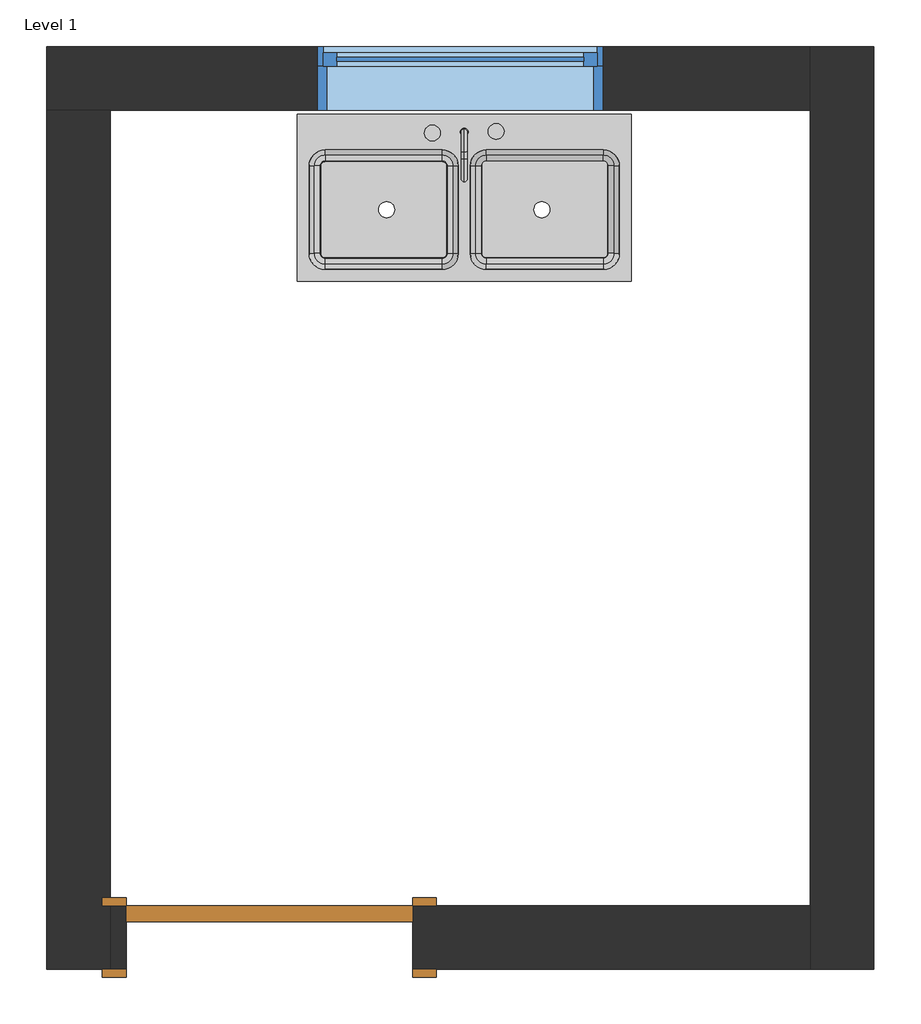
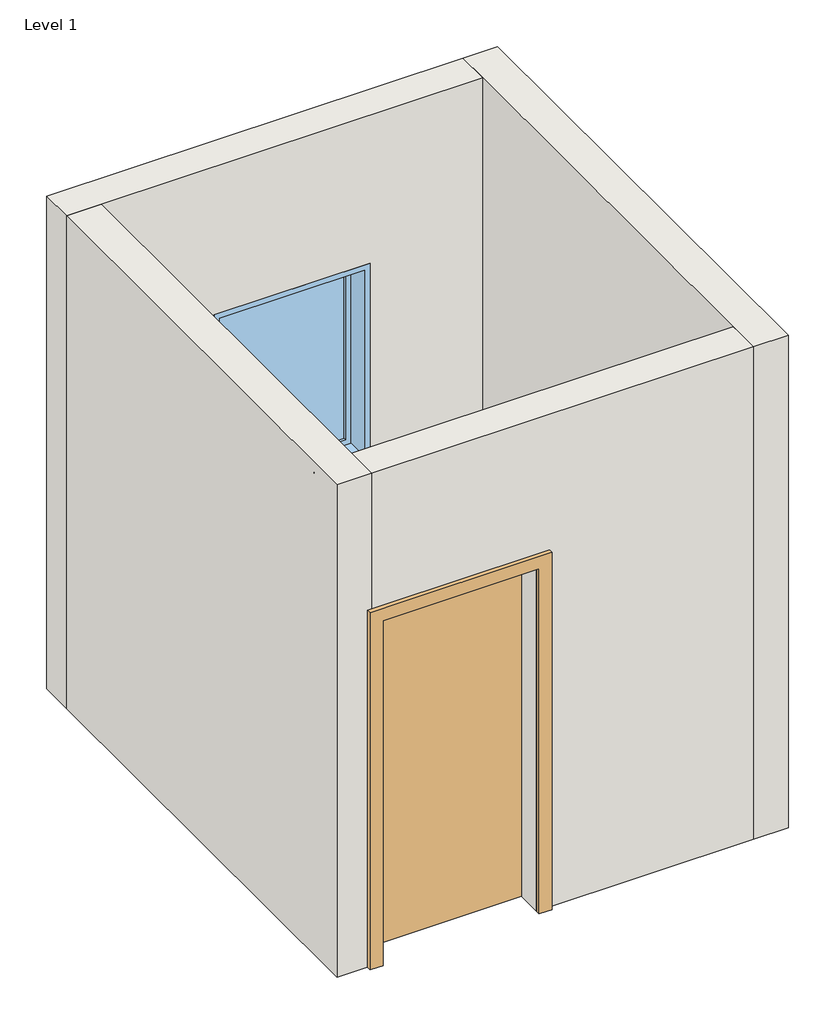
# One storey: 4 walls, 1 door, 1 flow terminal, 1 window.
"""IFC4 building model written with IfcOpenShell, lengths in millimetres."""

from ifc_helpers import new_model, si_unit, frame, origin, place, context, project, spatial, polyline, outline, extrude, faceted_brep, transform, mapped, element, save
from components import door_719f80de, flow_terminal_88eaddf2, window_e2841890

model = new_model("IFC4")

# Units and contexts
model_context = context("Model", 3, world=origin())
ifc_project = project(units=[si_unit("LENGTHUNIT", "METRE", prefix="MILLI")], contexts=[model_context])

# Site, building, storey
site = spatial("IfcSite", under=ifc_project)
building = spatial("IfcBuilding", under=site)
storey = spatial("IfcBuildingStorey", under=building, Name="Level 1", Elevation=0.0)

# Door
placement = place(None, origin())
door_shape = door_719f80de(model_context)
element("IfcDoor", 1, ObjectType="Single-Flush : 36\" x 84\"", at=placement, inside=storey, context=model_context, shape_type="MappedRepresentation", body=[
    mapped(door_shape, transform((-2555.0513488, 4196.5620945, 0.0), x_axis=(-0.9999999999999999, 0.0, 0.0), y_axis=(0.0, -0.9999999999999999, 0.0), z_axis=(0.0, 0.0, 1.0))),
])

# Flow terminal
flow_terminal_shape = flow_terminal_88eaddf2(model_context)
element("IfcFlowTerminal", 2, ObjectType="Sink Kitchen-Double : 42\" x 21\"", at=placement, inside=storey, context=model_context, shape_type="MappedRepresentation", body=[
    mapped(flow_terminal_shape, transform((-1948.4405894, 6556.4166934, 0.0), x_axis=(1.0, 0.0, 0.0), y_axis=(0.0, 1.0, 0.0), z_axis=(0.0, 0.0, 1.0))),
])

# Walls
element("IfcWall", 3, ObjectType="Generic - 8\"", at=placement, inside=storey, context=model_context, shape_type="Brep", body=[
    faceted_brep([(-3266.2513488, 6838.1620945, 0.0), (-3063.0513488, 6838.1620945, 0.0), (-827.8513488, 6838.1620945, 0.0), (-827.8513488, 6838.1620945, 3048.0), (-3063.0513488, 6838.1620945, 3048.0), (-3266.2513488, 6838.1620945, 3048.0), (-1488.2513488, 6838.1620945, 2133.6), (-1488.2513488, 6838.1620945, 914.4), (-2402.6513488, 6838.1620945, 914.4), (-2402.6513488, 6838.1620945, 2133.6), (-3266.2513488, 7041.3620945, 0.0), (-3266.2513488, 7041.3620945, 3048.0), (-827.8513488, 7041.3620945, 3048.0), (-827.8513488, 7041.3620945, 0.0), (-1488.2513488, 7041.3620945, 2133.6), (-2402.6513488, 7041.3620945, 2133.6), (-2402.6513488, 7041.3620945, 914.4), (-1488.2513488, 7041.3620945, 914.4)], [[[0, 1, 2, 3, 4, 5], [6, 7, 8, 9]], [[10, 11, 12, 13], [14, 15, 16, 17]], [[2, 1, 0, 10, 13]], [[5, 4, 3, 12, 11]], [[0, 5, 11, 10]], [[3, 2, 13, 12]], [[7, 6, 14, 17]], [[8, 7, 17, 16]], [[9, 8, 16, 15]], [[6, 9, 15, 14]]]),
])
element("IfcWall", 4, ObjectType="Generic - 8\"", at=placement, inside=storey, context=model_context, shape_type="Brep", body=[
    faceted_brep([(-3063.0513488, 4094.9620945, 0.0), (-3063.0513488, 4298.1620945, 0.0), (-3063.0513488, 6838.1620945, 0.0), (-3063.0513488, 6838.1620945, 3048.0), (-3063.0513488, 4298.1620945, 3048.0), (-3063.0513488, 4094.9620945, 3048.0), (-3266.2513488, 4094.9620945, 0.0), (-3266.2513488, 4094.9620945, 3048.0), (-3266.2513488, 6838.1620945, 3048.0), (-3266.2513488, 6838.1620945, 0.0)], [[[0, 1, 2, 3, 4, 5]], [[6, 7, 8, 9]], [[2, 1, 0, 6, 9]], [[5, 4, 3, 8, 7]], [[0, 5, 7, 6]], [[3, 2, 9, 8]]]),
])
element("IfcWall", 5, ObjectType="Generic - 8\"", at=placement, inside=storey, context=model_context, shape_type="SweptSolid", body=[
    extrude(outline(polyline([(0.0, -3063.0513488), (0.0, -3012.2513488), (2133.6, -3012.2513488), (2133.6, -2097.8513488), (0.0, -2097.8513488), (0.0, -827.8513488), (3048.0, -827.8513488), (3048.0, -3063.0513488), (0.0, -3063.0513488)])), frame((0.0, 4094.9620945, 0.0), z_axis=(0.0, 1.0, 0.0), x_axis=(0.0, 0.0, 1.0)), (0.0, 0.0, 1.0), 203.2),
])
element("IfcWall", 6, ObjectType="Generic - 8\"", at=placement, inside=storey, context=model_context, shape_type="Brep", body=[
    faceted_brep([(-827.8513488, 7041.3620945, 0.0), (-827.8513488, 6838.1620945, 0.0), (-827.8513488, 4298.1620945, 0.0), (-827.8513488, 4094.9620945, 0.0), (-827.8513488, 4094.9620945, 3048.0), (-827.8513488, 4298.1620945, 3048.0), (-827.8513488, 6838.1620945, 3048.0), (-827.8513488, 7041.3620945, 3048.0), (-624.6513488, 7041.3620945, 0.0), (-624.6513488, 7041.3620945, 3048.0), (-624.6513488, 4094.9620945, 3048.0), (-624.6513488, 4094.9620945, 0.0)], [[[0, 1, 2, 3, 4, 5, 6, 7]], [[8, 9, 10, 11]], [[3, 2, 1, 0, 8, 11]], [[7, 6, 5, 4, 10, 9]], [[0, 7, 9, 8]], [[4, 3, 11, 10]]]),
])

# Window
window_shape = window_e2841890(model_context)
element("IfcWindow", 7, ObjectType="Fixed : 36\" x 48\"", at=placement, inside=storey, context=model_context, shape_type="MappedRepresentation", body=[
    mapped(window_shape, transform((-1907.3513488, 6939.7620945, 0.0), x_axis=(0.9999999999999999, 0.0, 0.0), y_axis=(0.0, 0.9999999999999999, 0.0), z_axis=(0.0, 0.0, 1.0))),
])

save(model, "model.ifc")
